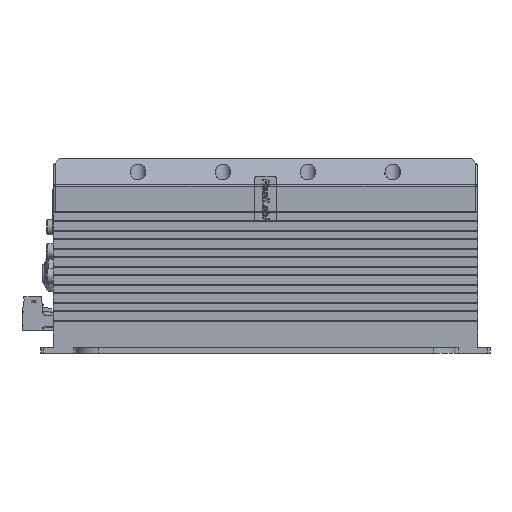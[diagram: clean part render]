
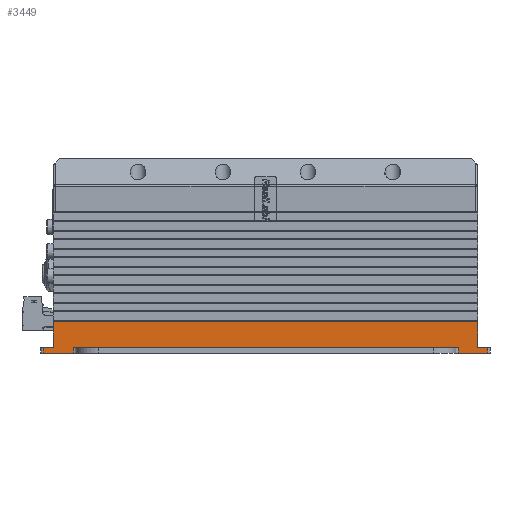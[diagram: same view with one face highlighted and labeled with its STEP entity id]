
A CAD part, left-side view. The second image highlights one B-rep face of the part: STEP entity #3449.
In plain terms, the highlighted planar face has unit normal (-1, 0, 0).
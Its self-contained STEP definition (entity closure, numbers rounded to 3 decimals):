
#3449=ADVANCED_FACE('',(#69363),#69365,.T.);
#69363=FACE_BOUND('',#69364,.T.);
#69364=EDGE_LOOP('',(#125116,#125117,#125118,#125119,#125120,#125121,#125122,#125123,
#125124,#125125,#125126,#125127));
#69365=PLANE('',#69366);
#69366=AXIS2_PLACEMENT_3D('',#69367,#69368,#69369);
#69367=CARTESIAN_POINT('',(-133.827,117.998,0.));
#69368=DIRECTION('',(-1.,0.,0.));
#69369=DIRECTION('',(0.,-1.,0.));
#125116=ORIENTED_EDGE('',*,*,#179347,.T.);
#125117=ORIENTED_EDGE('',*,*,#182265,.T.);
#125118=ORIENTED_EDGE('',*,*,#182266,.T.);
#125119=ORIENTED_EDGE('',*,*,#182267,.F.);
#125120=ORIENTED_EDGE('',*,*,#179339,.T.);
#125121=ORIENTED_EDGE('',*,*,#182268,.T.);
#125122=ORIENTED_EDGE('',*,*,#181820,.F.);
#125123=ORIENTED_EDGE('',*,*,#178553,.T.);
#125124=ORIENTED_EDGE('',*,*,#182264,.T.);
#125125=ORIENTED_EDGE('',*,*,#178600,.T.);
#125126=ORIENTED_EDGE('',*,*,#182269,.F.);
#125127=ORIENTED_EDGE('',*,*,#182270,.F.);
#178553=EDGE_CURVE('',#199421,#199419,#199422,.T.);
#178600=EDGE_CURVE('',#199515,#199513,#199516,.T.);
#179339=EDGE_CURVE('',#200851,#200849,#200852,.T.);
#179347=EDGE_CURVE('',#200867,#200865,#200868,.T.);
#181820=EDGE_CURVE('',#199421,#205761,#205762,.T.);
#182264=EDGE_CURVE('',#199419,#199515,#206442,.F.);
#182265=EDGE_CURVE('',#200865,#206443,#206444,.T.);
#182266=EDGE_CURVE('',#206443,#206445,#206446,.T.);
#182267=EDGE_CURVE('',#200851,#206445,#206447,.T.);
#182268=EDGE_CURVE('',#200849,#205761,#206448,.T.);
#182269=EDGE_CURVE('',#206449,#199513,#206450,.T.);
#182270=EDGE_CURVE('',#200867,#206449,#206451,.T.);
#199419=VERTEX_POINT('',#233538);
#199421=VERTEX_POINT('',#233542);
#199422=LINE('',#233543,#233544);
#199513=VERTEX_POINT('',#233744);
#199515=VERTEX_POINT('',#233748);
#199516=LINE('',#233749,#233750);
#200849=VERTEX_POINT('',#236731);
#200851=VERTEX_POINT('',#236736);
#200852=LINE('',#236737,#236738);
#200865=VERTEX_POINT('',#236767);
#200867=VERTEX_POINT('',#236772);
#200868=LINE('',#236773,#236774);
#205761=VERTEX_POINT('',#260093);
#205762=LINE('',#260094,#260095);
#206442=LINE('',#261724,#261725);
#206443=VERTEX_POINT('',#261727);
#206444=LINE('',#261728,#261729);
#206445=VERTEX_POINT('',#261731);
#206446=LINE('',#261732,#261733);
#206447=LINE('',#261735,#261736);
#206448=LINE('',#261738,#261739);
#206449=VERTEX_POINT('',#261741);
#206450=LINE('',#261742,#261743);
#206451=LINE('',#261745,#261746);
#233538=CARTESIAN_POINT('',(-133.827,-76.502,14.102));
#233542=CARTESIAN_POINT('',(-133.827,-76.502,2.5));
#233543=CARTESIAN_POINT('',(-133.827,-76.502,2.5));
#233544=VECTOR('',#233545,1.);
#233545=DIRECTION('',(0.,0.,1.));
#233744=CARTESIAN_POINT('',(-133.827,113.498,2.5));
#233748=CARTESIAN_POINT('',(-133.827,113.498,14.102));
#233749=CARTESIAN_POINT('',(-133.827,113.498,14.102));
#233750=VECTOR('',#233751,1.);
#233751=DIRECTION('',(0.,0.,-1.));
#236731=CARTESIAN_POINT('',(-133.827,-81.002,0.));
#236736=CARTESIAN_POINT('',(-133.827,-67.752,0.));
#236737=CARTESIAN_POINT('',(-133.827,-67.752,0.));
#236738=VECTOR('',#236739,1.);
#236739=DIRECTION('',(0.,-1.,0.));
#236767=CARTESIAN_POINT('',(-133.827,104.248,0.));
#236772=CARTESIAN_POINT('',(-133.827,117.998,0.));
#236773=CARTESIAN_POINT('',(-133.827,117.998,0.));
#236774=VECTOR('',#236775,1.);
#236775=DIRECTION('',(0.,-1.,0.));
#260093=CARTESIAN_POINT('',(-133.827,-81.002,2.5));
#260094=CARTESIAN_POINT('',(-133.827,-76.502,2.5));
#260095=VECTOR('',#260096,1.);
#260096=DIRECTION('',(0.,-1.,0.));
#261724=CARTESIAN_POINT('',(-133.827,113.498,14.102));
#261725=VECTOR('',#261726,1.);
#261726=DIRECTION('',(0.,-1.,0.));
#261727=CARTESIAN_POINT('',(-133.827,104.248,2.5));
#261728=CARTESIAN_POINT('',(-133.827,104.248,0.));
#261729=VECTOR('',#261730,1.);
#261730=DIRECTION('',(0.,0.,1.));
#261731=CARTESIAN_POINT('',(-133.827,-67.752,2.5));
#261732=CARTESIAN_POINT('',(-133.827,104.248,2.5));
#261733=VECTOR('',#261734,1.);
#261734=DIRECTION('',(0.,-1.,0.));
#261735=CARTESIAN_POINT('',(-133.827,-67.752,0.));
#261736=VECTOR('',#261737,1.);
#261737=DIRECTION('',(0.,0.,1.));
#261738=CARTESIAN_POINT('',(-133.827,-81.002,0.));
#261739=VECTOR('',#261740,1.);
#261740=DIRECTION('',(0.,0.,1.));
#261741=CARTESIAN_POINT('',(-133.827,117.998,2.5));
#261742=CARTESIAN_POINT('',(-133.827,117.998,2.5));
#261743=VECTOR('',#261744,1.);
#261744=DIRECTION('',(0.,-1.,0.));
#261745=CARTESIAN_POINT('',(-133.827,117.998,0.));
#261746=VECTOR('',#261747,1.);
#261747=DIRECTION('',(0.,0.,1.));
